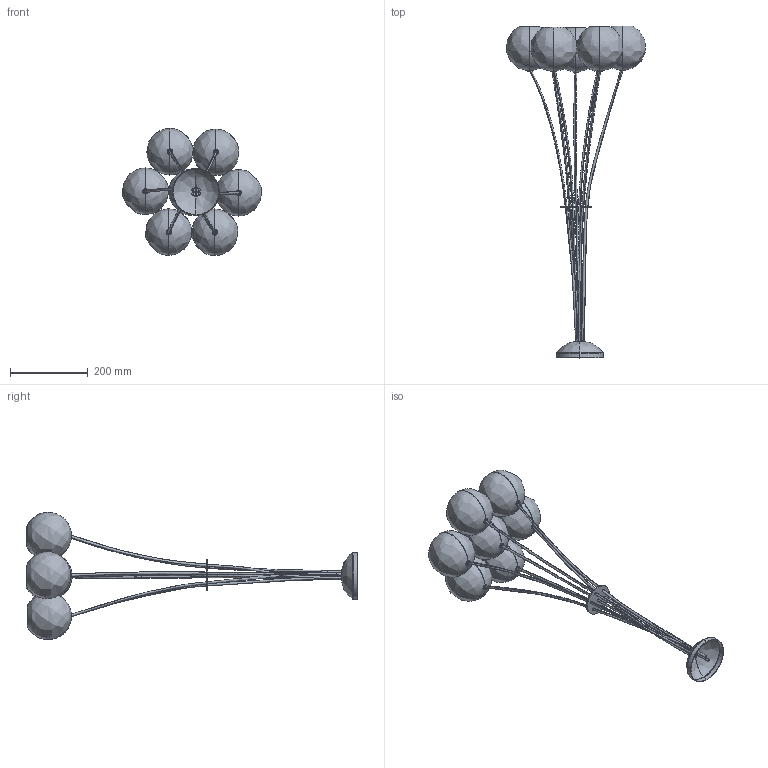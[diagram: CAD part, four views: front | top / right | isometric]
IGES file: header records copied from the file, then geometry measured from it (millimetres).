
Start section: SolidWorks IGES file using analytic representation for surfaces
Global section: file name: C:\Users\ppp\Desktop\Nowodvorski\Modele 3D_lampy\Bubble\3ds\Bubble_7.IGS; native system: SolidWorks 2012; preprocessor: SolidWorks 2012; author: ppp; date: 150729.081030; units: millimetre
Bounding box: 358.83 x 856.28 x 328.26 mm (x, y, z)
Surface area: 745937.3 mm2 (no closed solid volume)
Topology: 0 solids, 0 shells, 209 faces, 4602 edges, 4602 vertices
Faces by surface type: bspline 119, revolution 90
